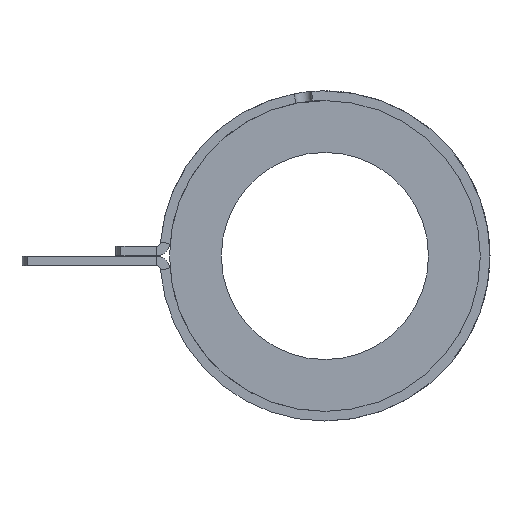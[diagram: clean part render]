
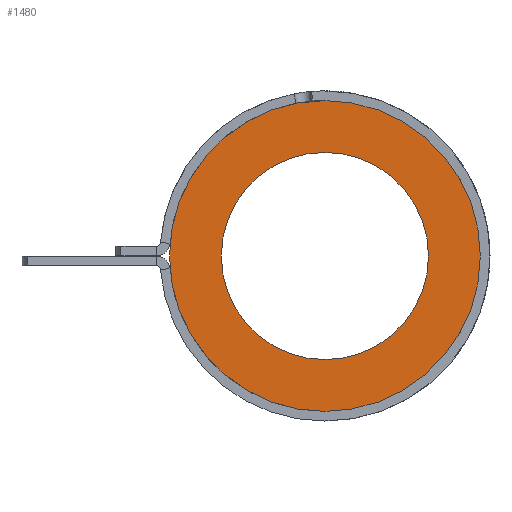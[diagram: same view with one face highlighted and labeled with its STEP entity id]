
A CAD part, left-side view. The second image highlights one B-rep face of the part: STEP entity #1480.
In plain terms, the highlighted planar face has unit normal (-1, 0, 0).
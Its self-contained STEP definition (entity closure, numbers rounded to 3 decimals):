
#73 = FACE_OUTER_BOUND ( 'NONE', #560, .T. ) ;
#76 = FACE_BOUND ( 'NONE', #562, .T. ) ;
#298 = ORIENTED_EDGE ( 'NONE', *, *, #444, .F. ) ;
#299 = ORIENTED_EDGE ( 'NONE', *, *, #451, .F. ) ;
#300 = ORIENTED_EDGE ( 'NONE', *, *, #450, .T. ) ;
#301 = ORIENTED_EDGE ( 'NONE', *, *, #425, .T. ) ;
#361 = AXIS2_PLACEMENT_3D ( 'NONE', #1531, #1532, #1533 ) ;
#403 = AXIS2_PLACEMENT_3D ( 'NONE', #607, #608, #609 ) ;
#404 = AXIS2_PLACEMENT_3D ( 'NONE', #602, #603, #604 ) ;
#408 = AXIS2_PLACEMENT_3D ( 'NONE', #807, #808, #809 ) ;
#418 = AXIS2_PLACEMENT_3D ( 'NONE', #997, #998, #999 ) ;
#425 = EDGE_CURVE ( 'NONE', #1191, #1142, #674, .T. ) ;
#444 = EDGE_CURVE ( 'NONE', #1187, #1154, #699, .T. ) ;
#450 = EDGE_CURVE ( 'NONE', #1142, #1191, #1039, .T. ) ;
#451 = EDGE_CURVE ( 'NONE', #1154, #1187, #1044, .T. ) ;
#560 = EDGE_LOOP ( 'NONE', ( #298, #299 ) ) ;
#562 = EDGE_LOOP ( 'NONE', ( #300, #301 ) ) ;
#602 = CARTESIAN_POINT ( 'NONE',  ( -82.55, 0., 0. ) ) ;
#603 = DIRECTION ( 'NONE',  ( 1., 0., 0. ) ) ;
#604 = DIRECTION ( 'NONE',  ( 0., 0., -1. ) ) ;
#607 = CARTESIAN_POINT ( 'NONE',  ( -82.55, 0., 0. ) ) ;
#608 = DIRECTION ( 'NONE',  ( 1., 0., 0. ) ) ;
#609 = DIRECTION ( 'NONE',  ( 0., 0., -1. ) ) ;
#674 = CIRCLE ( 'NONE', #418, 9.525 ) ;
#699 = CIRCLE ( 'NONE', #408, 14.288 ) ;
#807 = CARTESIAN_POINT ( 'NONE',  ( -82.55, 0., 0. ) ) ;
#808 = DIRECTION ( 'NONE',  ( 1., 0., 0. ) ) ;
#809 = DIRECTION ( 'NONE',  ( 0., 0., -1. ) ) ;
#997 = CARTESIAN_POINT ( 'NONE',  ( -82.55, 0., 0. ) ) ;
#998 = DIRECTION ( 'NONE',  ( 1., 0., 0. ) ) ;
#999 = DIRECTION ( 'NONE',  ( 0., 0., -1. ) ) ;
#1039 = CIRCLE ( 'NONE', #404, 9.525 ) ;
#1044 = CIRCLE ( 'NONE', #403, 14.288 ) ;
#1142 = VERTEX_POINT ( 'NONE', #1415 ) ;
#1154 = VERTEX_POINT ( 'NONE', #1439 ) ;
#1187 = VERTEX_POINT ( 'NONE', #1385 ) ;
#1191 = VERTEX_POINT ( 'NONE', #1389 ) ;
#1385 = CARTESIAN_POINT ( 'NONE',  ( -82.55, 0., 14.288 ) ) ;
#1389 = CARTESIAN_POINT ( 'NONE',  ( -82.55, 0., -9.525 ) ) ;
#1415 = CARTESIAN_POINT ( 'NONE',  ( -82.55, 0., 9.525 ) ) ;
#1439 = CARTESIAN_POINT ( 'NONE',  ( -82.55, 0., -14.288 ) ) ;
#1480 = ADVANCED_FACE ( 'NONE', ( #73, #76 ), #1529, .F. ) ;
#1529 = PLANE ( 'NONE',  #361 ) ;
#1531 = CARTESIAN_POINT ( 'NONE',  ( -82.55, 0., 0. ) ) ;
#1532 = DIRECTION ( 'NONE',  ( 1., 0., 0. ) ) ;
#1533 = DIRECTION ( 'NONE',  ( 0., 0., -1. ) ) ;
